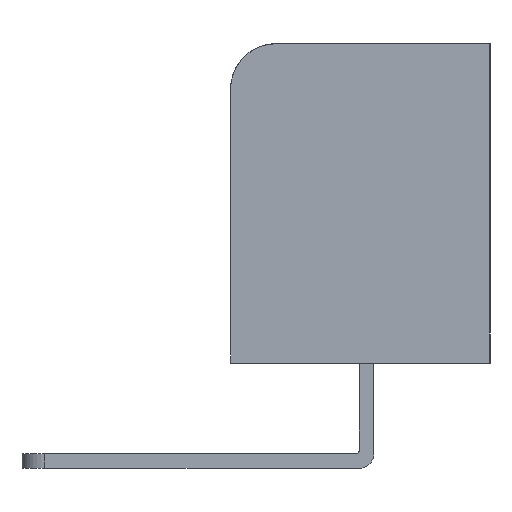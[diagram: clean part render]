
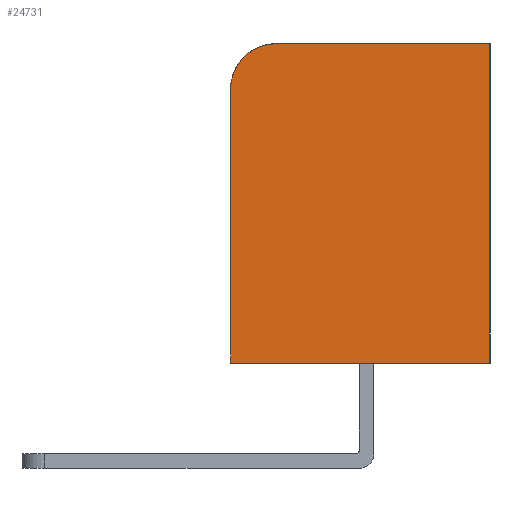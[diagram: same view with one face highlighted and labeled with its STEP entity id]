
A CAD part, left-side view. The second image highlights one B-rep face of the part: STEP entity #24731.
In plain terms, the highlighted planar face has unit normal (-1, 0, 0).
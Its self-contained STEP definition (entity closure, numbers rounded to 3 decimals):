
#129=DIRECTION('',(0.,0.,1.));
#130=VECTOR('',#129,15.1);
#131=CARTESIAN_POINT('',(0.,14.3,-17.6));
#132=LINE('',#131,#130);
#7085=CARTESIAN_POINT('',(0.,11.8,-2.5));
#7086=DIRECTION('',(-1.,0.,0.));
#7087=DIRECTION('',(0.,0.,1.));
#7088=AXIS2_PLACEMENT_3D('',#7085,#7086,#7087);
#7090=DIRECTION('',(0.,1.,0.));
#7091=VECTOR('',#7090,11.8);
#7092=CARTESIAN_POINT('',(0.,0.,0.));
#7093=LINE('',#7092,#7091);
#7094=DIRECTION('',(0.,0.,1.));
#7095=VECTOR('',#7094,17.6);
#7096=CARTESIAN_POINT('',(0.,0.,-17.6));
#7097=LINE('',#7096,#7095);
#7098=DIRECTION('',(0.,-1.,0.));
#7099=VECTOR('',#7098,14.3);
#7100=CARTESIAN_POINT('',(0.,14.3,-17.6));
#7101=LINE('',#7100,#7099);
#13709=CARTESIAN_POINT('',(0.,0.,-17.6));
#13710=VERTEX_POINT('',#13709);
#13711=CARTESIAN_POINT('',(0.,0.,0.));
#13712=VERTEX_POINT('',#13711);
#13839=CARTESIAN_POINT('',(0.,14.3,-17.6));
#13840=VERTEX_POINT('',#13839);
#13841=CARTESIAN_POINT('',(0.,11.8,0.));
#13842=VERTEX_POINT('',#13841);
#13847=CARTESIAN_POINT('',(0.,14.3,-2.5));
#13848=VERTEX_POINT('',#13847);
#24718=CARTESIAN_POINT('',(0.,0.,-17.6));
#24719=DIRECTION('',(-1.,0.,0.));
#24720=DIRECTION('',(0.,0.,1.));
#24721=AXIS2_PLACEMENT_3D('',#24718,#24719,#24720);
#24722=PLANE('',#24721);
#24723=ORIENTED_EDGE('',*,*,#16291,.T.);
#24724=ORIENTED_EDGE('',*,*,#24713,.F.);
#24725=ORIENTED_EDGE('',*,*,#16221,.F.);
#24727=ORIENTED_EDGE('',*,*,#24726,.F.);
#24728=ORIENTED_EDGE('',*,*,#16313,.F.);
#24729=EDGE_LOOP('',(#24723,#24724,#24725,#24727,#24728));
#24730=FACE_OUTER_BOUND('',#24729,.F.);
#24731=ADVANCED_FACE('',(#24730),#24722,.T.);
#7089=CIRCLE('',#7088,2.5);
#16221=EDGE_CURVE('',#13712,#13842,#7093,.T.);
#16291=EDGE_CURVE('',#13840,#13848,#132,.T.);
#16313=EDGE_CURVE('',#13840,#13710,#7101,.T.);
#24713=EDGE_CURVE('',#13842,#13848,#7089,.T.);
#24726=EDGE_CURVE('',#13710,#13712,#7097,.T.);
